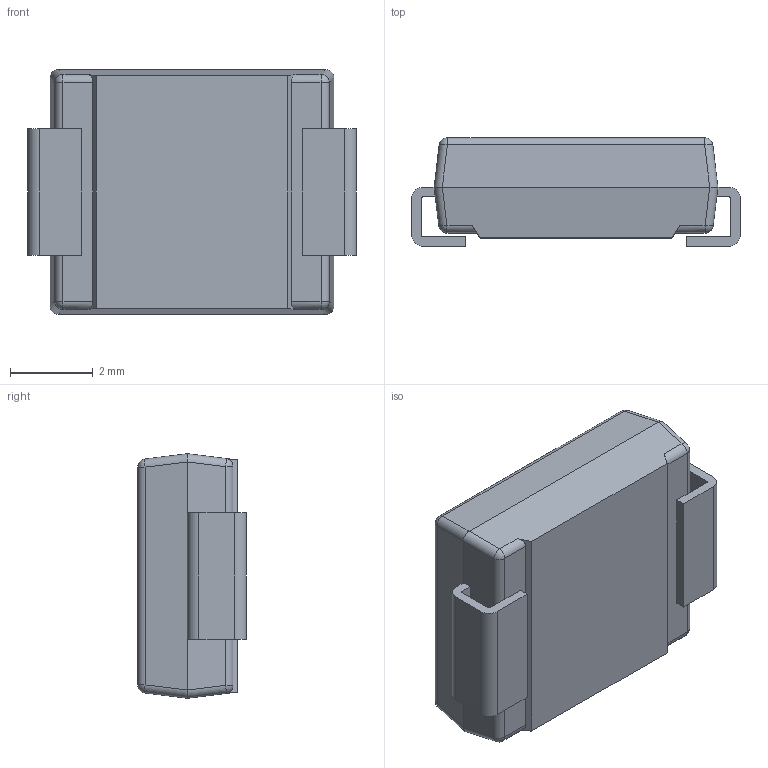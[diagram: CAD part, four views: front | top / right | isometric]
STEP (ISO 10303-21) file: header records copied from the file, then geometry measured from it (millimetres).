
FILE_DESCRIPTION (( 'STEP AP214' ), '1' );
FILE_NAME ('TPSMD26A.STEP', '2024-04-11T07:22:12', ( '' ), ( '' ), 'SwSTEP 2.0', 'SolidWorks 2023', '' );
FILE_SCHEMA (( 'AUTOMOTIVE_DESIGN' ));
Length unit declared in the file: millimetre
Products named in the file (1): TPSMD26A
Bounding box: 7.94 x 2.62 x 5.91 mm (x, y, z)
Volume: 95.6 mm3; surface area: 168.1 mm2
Topology: 3 solids, 3 shells, 69 faces, 157 edges, 94 vertices
Faces by surface type: plane 35, cylinder 26, sphere 8
Entity records: 2695 total; most frequent: CARTESIAN_POINT 345, DIRECTION 329, ORIENTED_EDGE 314, EDGE_CURVE 157, AXIS2_PLACEMENT_3D 110, LINE 109, VECTOR 109, VERTEX_POINT 94
